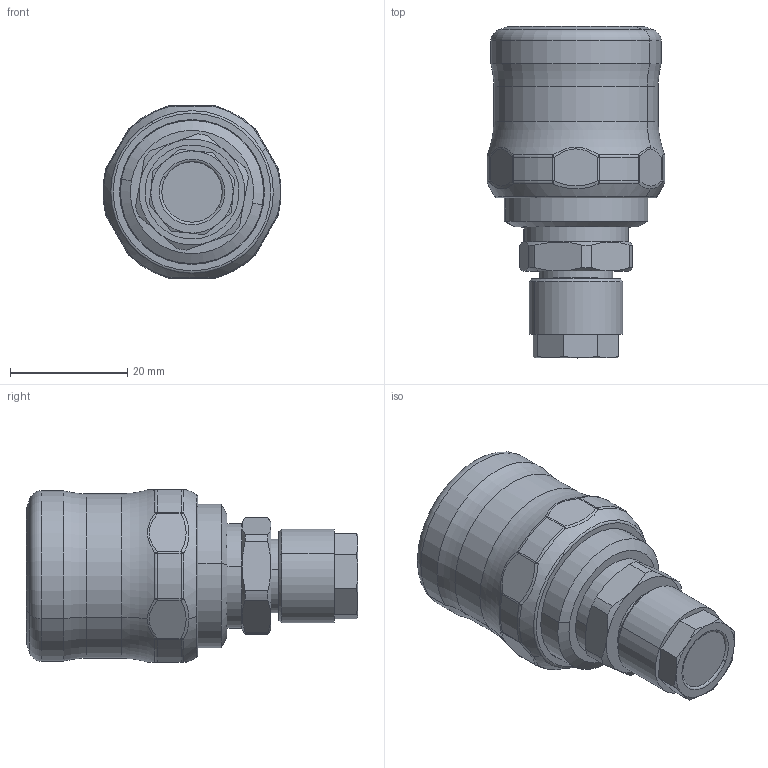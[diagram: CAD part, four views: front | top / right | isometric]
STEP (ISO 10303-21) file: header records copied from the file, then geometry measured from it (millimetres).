
FILE_DESCRIPTION (( 'STEP AP214' ), '1' );
FILE_NAME ('0066400003.step', '2012-11-19T11:08:43', ( '' ), ( '' ), 'SwSTEP 2.0', 'SolidWorks 2012', '' );
FILE_SCHEMA (( 'AUTOMOTIVE_DESIGN' ));
Length unit declared in the file: millimetre
Products named in the file (1): 0066400003
Bounding box: 30.29 x 56.5 x 29.4 mm (x, y, z)
Volume: 25457.7 mm3; surface area: 6063.2 mm2
Topology: 1 solids, 1 shells, 197 faces, 444 edges, 259 vertices
Faces by surface type: cylinder 63, plane 41, cone 33, torus 24, sphere 24, bspline 12
Entity records: 8421 total; most frequent: CARTESIAN_POINT 1891, DIRECTION 1005, ORIENTED_EDGE 888, EDGE_CURVE 444, AXIS2_PLACEMENT_3D 439, VERTEX_POINT 259, CIRCLE 253, EDGE_LOOP 207
